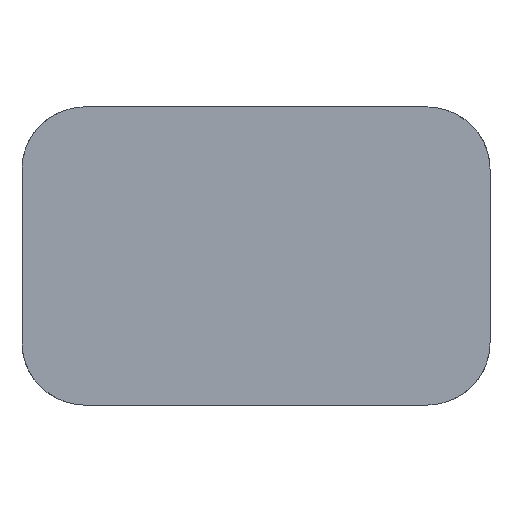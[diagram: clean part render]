
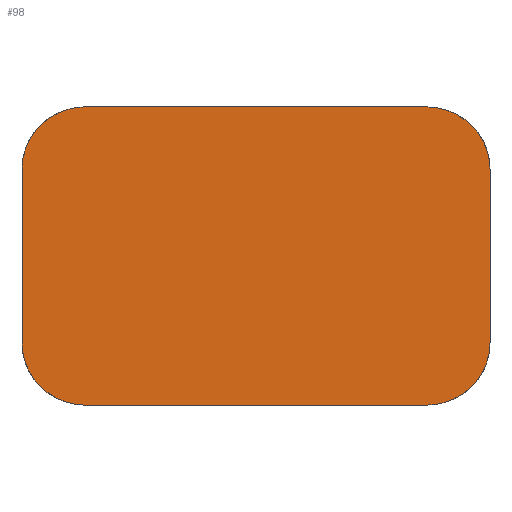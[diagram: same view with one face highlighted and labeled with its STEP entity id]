
A CAD part, top view. The second image highlights one B-rep face of the part: STEP entity #98.
In plain terms, the highlighted planar face has unit normal (0, 0, 1).
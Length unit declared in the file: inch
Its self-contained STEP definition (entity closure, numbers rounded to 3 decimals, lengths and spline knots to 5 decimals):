
#98=ADVANCED_FACE('',(#228),#229,.T.);
#228=FACE_OUTER_BOUND('',#409,.T.);
#229=PLANE('',#410);
#409=EDGE_LOOP('',(#693,#694,#695,#696,#697,#698,#699,#700));
#410=AXIS2_PLACEMENT_3D('',#701,#702,#703);
#693=ORIENTED_EDGE('',*,*,#1096,.F.);
#694=ORIENTED_EDGE('',*,*,#1097,.F.);
#695=ORIENTED_EDGE('',*,*,#1098,.F.);
#696=ORIENTED_EDGE('',*,*,#1099,.F.);
#697=ORIENTED_EDGE('',*,*,#1100,.F.);
#698=ORIENTED_EDGE('',*,*,#1101,.F.);
#699=ORIENTED_EDGE('',*,*,#1059,.F.);
#700=ORIENTED_EDGE('',*,*,#1102,.F.);
#701=CARTESIAN_POINT('',(3.72016,5.97337,0.075));
#702=DIRECTION('',(0.0,0.0,1.0));
#703=DIRECTION('',(1.0,0.0,0.0));
#1059=EDGE_CURVE('',#1278,#1279,#1280,.T.);
#1096=EDGE_CURVE('',#1338,#1339,#1340,.T.);
#1097=EDGE_CURVE('',#1341,#1338,#1342,.T.);
#1098=EDGE_CURVE('',#1343,#1341,#1344,.T.);
#1099=EDGE_CURVE('',#1345,#1343,#1346,.T.);
#1100=EDGE_CURVE('',#1347,#1345,#1348,.T.);
#1101=EDGE_CURVE('',#1279,#1347,#1349,.T.);
#1102=EDGE_CURVE('',#1339,#1278,#1350,.T.);
#1278=VERTEX_POINT('',#1609);
#1279=VERTEX_POINT('',#1610);
#1280=LINE('',#1611,#1612);
#1338=VERTEX_POINT('',#1699);
#1339=VERTEX_POINT('',#1700);
#1340=LINE('',#1701,#1702);
#1341=VERTEX_POINT('',#1703);
#1342=B_SPLINE_CURVE_WITH_KNOTS('',3,(#1704,#1705,#1706,#1707),.UNSPECIFIED.,.F.,.F.,(4,4),(-1.0,-0.0),.UNSPECIFIED.);
#1343=VERTEX_POINT('',#1708);
#1344=LINE('',#1709,#1710);
#1345=VERTEX_POINT('',#1711);
#1346=B_SPLINE_CURVE_WITH_KNOTS('',3,(#1712,#1713,#1714,#1715),.UNSPECIFIED.,.F.,.F.,(4,4),(-1.0,-0.0),.UNSPECIFIED.);
#1347=VERTEX_POINT('',#1716);
#1348=LINE('',#1717,#1718);
#1349=B_SPLINE_CURVE_WITH_KNOTS('',3,(#1719,#1720,#1721,#1722),.UNSPECIFIED.,.F.,.F.,(4,4),(-1.0,-0.0),.UNSPECIFIED.);
#1350=B_SPLINE_CURVE_WITH_KNOTS('',3,(#1723,#1724,#1725,#1726),.UNSPECIFIED.,.F.,.F.,(4,4),(-1.0,-0.0),.UNSPECIFIED.);
#1609=CARTESIAN_POINT('',(4.62716,5.17634,0.075));
#1610=CARTESIAN_POINT('',(2.81317,5.17634,0.075));
#1611=CARTESIAN_POINT('',(2.81317,5.17634,0.075));
#1612=VECTOR('',#1963,1.0);
#1699=CARTESIAN_POINT('',(4.97012,6.43758,0.075));
#1700=CARTESIAN_POINT('',(4.97012,5.50914,0.075));
#1701=CARTESIAN_POINT('',(4.97012,5.50914,0.075));
#1702=VECTOR('',#1993,1.0);
#1703=CARTESIAN_POINT('',(4.62716,6.7704,0.075));
#1704=CARTESIAN_POINT('',(4.62716,6.7704,0.075));
#1705=CARTESIAN_POINT('',(4.81657,6.7704,0.075));
#1706=CARTESIAN_POINT('',(4.97012,6.62141,0.075));
#1707=CARTESIAN_POINT('',(4.97012,6.43758,0.075));
#1708=CARTESIAN_POINT('',(2.81317,6.7704,0.075));
#1709=CARTESIAN_POINT('',(4.62716,6.7704,0.075));
#1710=VECTOR('',#1994,1.0);
#1711=CARTESIAN_POINT('',(2.4702,6.43758,0.075));
#1712=CARTESIAN_POINT('',(2.4702,6.43758,0.075));
#1713=CARTESIAN_POINT('',(2.4702,6.62141,0.075));
#1714=CARTESIAN_POINT('',(2.62375,6.7704,0.075));
#1715=CARTESIAN_POINT('',(2.81317,6.7704,0.075));
#1716=CARTESIAN_POINT('',(2.4702,5.50914,0.075));
#1717=CARTESIAN_POINT('',(2.4702,6.43758,0.075));
#1718=VECTOR('',#1995,1.0);
#1719=CARTESIAN_POINT('',(2.81317,5.17634,0.075));
#1720=CARTESIAN_POINT('',(2.62375,5.17634,0.075));
#1721=CARTESIAN_POINT('',(2.4702,5.32537,0.075));
#1722=CARTESIAN_POINT('',(2.4702,5.50914,0.075));
#1723=CARTESIAN_POINT('',(4.97012,5.50914,0.075));
#1724=CARTESIAN_POINT('',(4.97012,5.32537,0.075));
#1725=CARTESIAN_POINT('',(4.81657,5.17634,0.075));
#1726=CARTESIAN_POINT('',(4.62716,5.17634,0.075));
#1963=DIRECTION('',(-1.0,-0.0,-0.0));
#1993=DIRECTION('',(-0.0,-1.0,-0.0));
#1994=DIRECTION('',(1.0,0.0,0.0));
#1995=DIRECTION('',(0.0,1.0,0.0));
